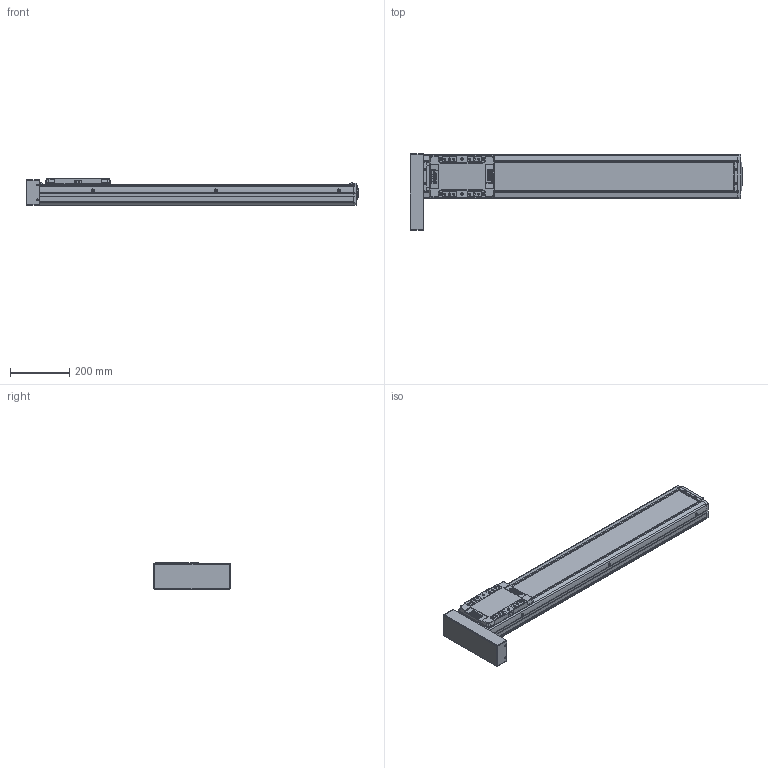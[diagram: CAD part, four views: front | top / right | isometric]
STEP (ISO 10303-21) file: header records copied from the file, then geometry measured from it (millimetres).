
FILE_DESCRIPTION(('STEP AP214'),'1');
FILE_NAME('Z:/Web/3D/SAN150/2013.04 (STP.)/SAN150ㅁㅁ-800PR.stp','2013-05-07T11:05:37',(' '),(' '),'Spatial InterOp 3D',' ',' ');
FILE_SCHEMA(('automotive_design'));
Length unit declared in the file: millimetre
Products named in the file (42): SLBL-SAN150; SLCV-SAN150; FHCS M4.0 x 8.0; BHCS M4.0 x 10.0; SFX-SAN150; RRCV-SAN150; FRBL-SAN150; Spacer; RN15; FRCV-SAN150; Screw 20; BASE-SAN150-000L ; SUS COVER; 스크루 : Round - M5.0 x 6.0; BHCS M3.0 x 6.0; P
Bounding box: 1120 x 260.73 x 90 mm (x, y, z)
Volume: 6869810 mm3; surface area: 1178520.8 mm2
Topology: 42 solids, 42 shells, 2241 faces, 5746 edges, 3655 vertices
Faces by surface type: plane 1061, cylinder 805, cone 278, sphere 64, bspline 21, torus 12
Entity records: 88890 total; most frequent: CARTESIAN_POINT 14634, DIRECTION 12224, ORIENTED_EDGE 11236, EDGE_CURVE 5618, AXIS2_PLACEMENT_3D 4440, VERTEX_POINT 3655, LINE 3344, VECTOR 3344
